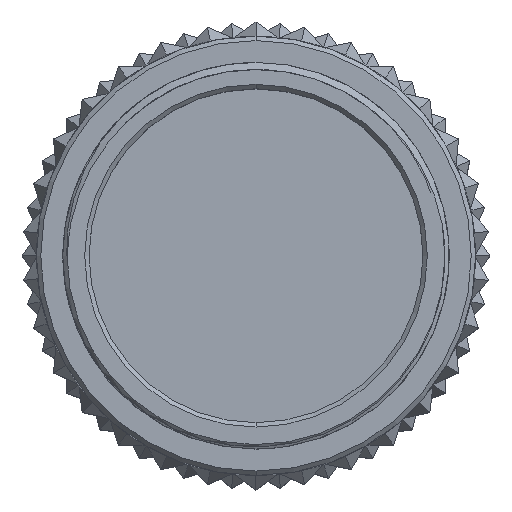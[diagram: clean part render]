
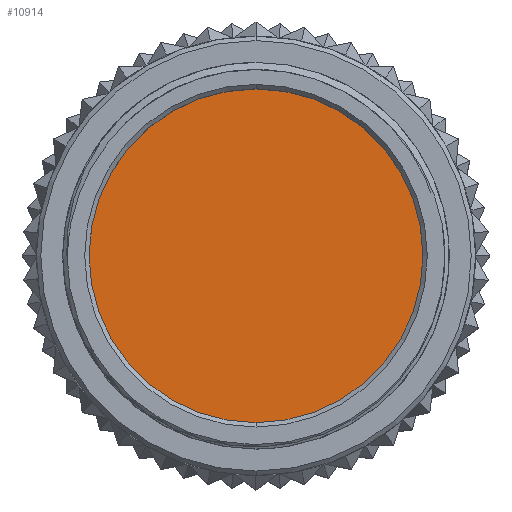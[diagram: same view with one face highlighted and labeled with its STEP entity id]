
A CAD part, top view. The second image highlights one B-rep face of the part: STEP entity #10914.
In plain terms, the highlighted planar face has unit normal (0, 0, 1).
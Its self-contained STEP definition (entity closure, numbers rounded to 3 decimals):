
#1122 = DIRECTION ( 'NONE',  ( 0., 1., 0. ) ) ;
#1292 = DIRECTION ( 'NONE',  ( 0., 1., 0. ) ) ;
#2072 = CARTESIAN_POINT ( 'NONE',  ( 0., 9.66, -15.66 ) ) ;
#2454 = ORIENTED_EDGE ( 'NONE', *, *, #16321, .T. ) ;
#4794 = EDGE_CURVE ( 'NONE', #5094, #18642, #10860, .T. ) ;
#5094 = VERTEX_POINT ( 'NONE', #22154 ) ;
#6285 = CARTESIAN_POINT ( 'NONE',  ( 0., -12.34, -15.66 ) ) ;
#9474 = CARTESIAN_POINT ( 'NONE',  ( 0., -12.34, -15.66 ) ) ;
#10860 = CIRCLE ( 'NONE', #26312, 22. ) ;
#10914 = ADVANCED_FACE ( 'NONE', ( #18127 ), #16643, .F. ) ;
#16321 = EDGE_CURVE ( 'NONE', #18642, #5094, #23605, .T. ) ;
#16602 = AXIS2_PLACEMENT_3D ( 'NONE', #6285, #24829, #22664 ) ;
#16643 = PLANE ( 'NONE',  #16602 ) ;
#17612 = AXIS2_PLACEMENT_3D ( 'NONE', #23456, #23195, #1292 ) ;
#18127 = FACE_OUTER_BOUND ( 'NONE', #19360, .T. ) ;
#18642 = VERTEX_POINT ( 'NONE', #2072 ) ;
#19360 = EDGE_LOOP ( 'NONE', ( #25376, #2454 ) ) ;
#21691 = DIRECTION ( 'NONE',  ( 0., 0., 1. ) ) ;
#22154 = CARTESIAN_POINT ( 'NONE',  ( 0., -34.34, -15.66 ) ) ;
#22664 = DIRECTION ( 'NONE',  ( 0., 1., 0. ) ) ;
#23195 = DIRECTION ( 'NONE',  ( 0., 0., 1. ) ) ;
#23456 = CARTESIAN_POINT ( 'NONE',  ( 0., -12.34, -15.66 ) ) ;
#23605 = CIRCLE ( 'NONE', #17612, 22. ) ;
#24829 = DIRECTION ( 'NONE',  ( 0., 0., -1. ) ) ;
#25376 = ORIENTED_EDGE ( 'NONE', *, *, #4794, .T. ) ;
#26312 = AXIS2_PLACEMENT_3D ( 'NONE', #9474, #21691, #1122 ) ;
